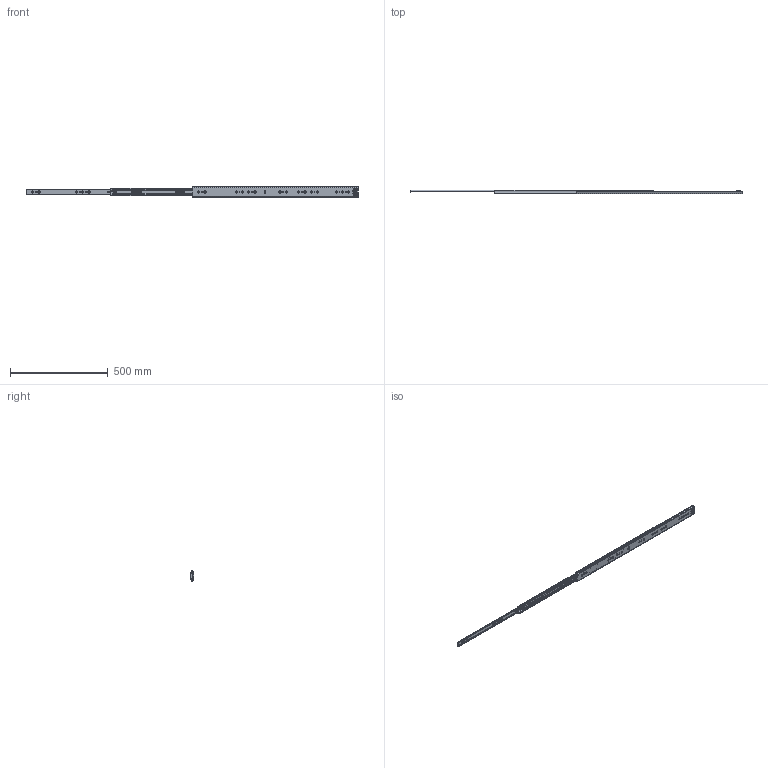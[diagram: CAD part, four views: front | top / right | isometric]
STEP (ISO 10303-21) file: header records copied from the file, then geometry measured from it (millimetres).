
FILE_DESCRIPTION((''),'2;1');
FILE_NAME('1053-02-34_ASM','2022-08-16T',('jishu015'),(''),'PRO/ENGINEER BY PARAMETRIC TECHNOLOGY CORPORATION, 2010280','PRO/ENGINEER BY PARAMETRIC TECHNOLOGY CORPORATION, 2010280','');
FILE_SCHEMA(('CONFIG_CONTROL_DESIGN'));
Products named in the file (16): 1053-02-32WAIKE; 1053WEIJIAO_________; 53-WAIKEJIAO-34; 1053-02-34WAIKE_ASM; 1053ZHUTIAO-175_________; 53-5-6GANZHU_________; 1053ZHUTIAO-175MM__________ASM; 1053-02-18ZHONGGUI_________; 53ZHIDIJIAO_________; 1053-02-18ZHONGGUI__________ASM; 1053XIAOZHUJIA-14GE_________; 1053XIAOZHUJIA-14GE__________ASM; 1053-02-18NEIGUI_________; 53BACHA________; 1053-02-18NEIGUI__________ASM; 1053-02-34_ASM
Assembly tree (94 placements, depth 3):
  1053-02-34_ASM
    1053-02-34WAIKE_ASM
      1053-02-32WAIKE
      1053WEIJIAO_________
      53-WAIKEJIAO-34
    1053ZHUTIAO-175MM__________ASM  x2
      1053ZHUTIAO-175_________
      53-5-6GANZHU_________
    1053-02-18ZHONGGUI__________ASM
      1053-02-18ZHONGGUI_________
      53ZHIDIJIAO_________
    1053XIAOZHUJIA-14GE__________ASM
      1053XIAOZHUJIA-14GE_________
      53-5-6GANZHU_________  x64
    1053-02-18NEIGUI__________ASM
      1053-02-18NEIGUI_________
      53BACHA________
Bounding box: 1700 x 18.7 x 53 mm (x, y, z)
Volume: 322589 mm3; surface area: 372542.8 mm2
Topology: 104 solids, 110 shells, 2728 faces, 7909 edges, 4937 vertices
Faces by surface type: cylinder 1204, plane 1056, sphere 206, cone 124, bspline 104, torus 34
Entity records: 87503 total; most frequent: CARTESIAN_POINT 21291, ORIENTED_EDGE 13942, DIRECTION 13760, EDGE_CURVE 7043, AXIS2_PLACEMENT_3D 4824, VERTEX_POINT 4555, VECTOR 4112, LINE 4112
